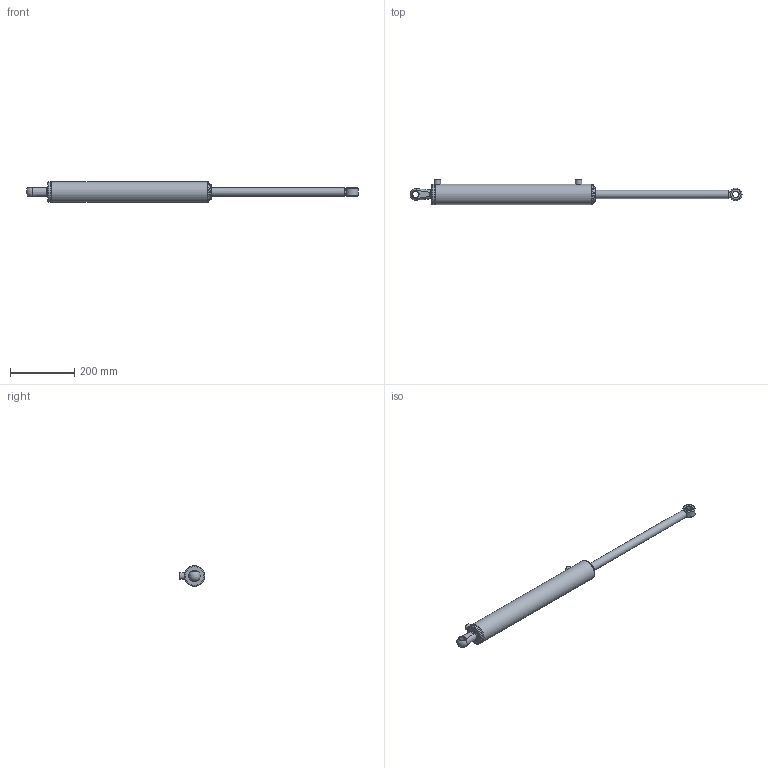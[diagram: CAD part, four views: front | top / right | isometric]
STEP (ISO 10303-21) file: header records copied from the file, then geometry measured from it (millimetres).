
FILE_DESCRIPTION(/* description */ ('Alibre Inc.'),/* implementation_level */ '2;1');
FILE_NAME(/* name */ 'export0',/* time_stamp */ '2016-08-16T09:53:16+12:00',/* author */ (''),/* organization */ (''),/* preprocessor_version */ 'ST-DEVELOPER v14',/* originating_system */ 'Alibre',/* authorisation */ '');
FILE_SCHEMA (('AUTOMOTIVE_DESIGN'));
Length unit declared in the file: centimetre
Bounding box: 1030.94 x 78.5 x 63.5 mm (x, y, z)
Volume: 1008893.6 mm3; surface area: 279376.8 mm2
Topology: 11 solids, 11 shells, 138 faces, 278 edges, 173 vertices
Faces by surface type: cylinder 51, plane 44, cone 27, torus 13, bspline 2, sphere 1
Full cylindrical faces by diameter (mm): 2.5 x2, 5.588 x1, 6.35 x2, 8.3 x2, 11.9 x2, 17.323 x2, 19.05 x2, 19.101 x1, 20 x2, 25.4 x1, 25.45 x2, 31.77 x1, 31.8 x1, 32.5 x1, 34.93 x2, 38.1 x1, 41.3 x2, 44.91 x1, 45.5 x1, 46.23 x2, 48 x2, 48.3 x1, 49.48 x2, 50.07 x1, 50.69 x2, 50.8 x2, 54 x1, 63.5 x3
Entity records: 3664 total; most frequent: CARTESIAN_POINT 968, DIRECTION 530, ORIENTED_EDGE 330, AXIS2_PLACEMENT_3D 283, FACE_BOUND 258, EDGE_LOOP 256, EDGE_CURVE 165, VERTEX_POINT 153
